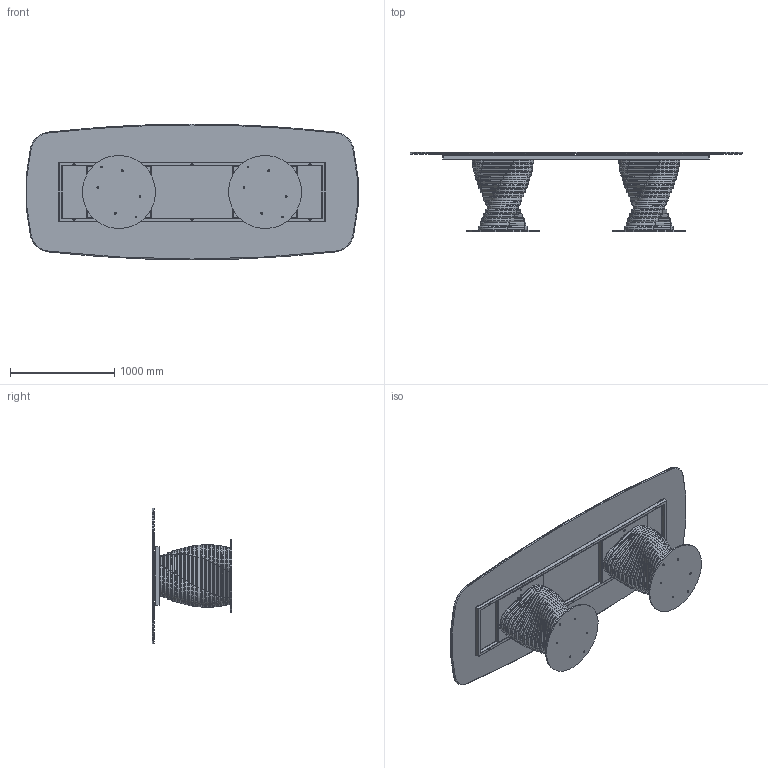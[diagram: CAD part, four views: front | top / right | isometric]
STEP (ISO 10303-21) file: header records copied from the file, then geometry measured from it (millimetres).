
FILE_DESCRIPTION (( 'STEP AP203' ), '1' );
FILE_NAME ('RO47C.STEP', '2024-08-07T13:22:19', ( '' ), ( '' ), 'SwSTEP 2.0', 'SolidWorks 2022', '' );
FILE_SCHEMA (( 'CONFIG_CONTROL_DESIGN' ));
Length unit declared in the file: millimetre
Products named in the file (15): TTAV03_02-06-VASSOIO IRRIGIDIMENTO TELAIO UNIVERSALE RETTANGOLARE; ROB200000-00-PIASTRA BASE_Ø70cm; K4XCMXX-00-Piani Sagomati in ceramica_3190 x 1300; COLLO TELAIO UNIVERSALE TTAV03 CON FERRAMENTA_MTG TOP CRISTALLO VERNICIATO-CERAMICA; ROBX00000-00-ROTOLO BASE 17 ANELLI; TTAV03-06-TELAIO UNIVERSALE X TAVOLI 300-340cm; TTAV03_01-06-RING TUBO TELAIO UNIVERSALE X TAVOLI 300-340cm; M8xXXmm_hex_M8X20mm; M8xXXmm_M8x20mm; ROBX00000INF-00-Anello rotolo INFERIORE_Default<A macchina>; 434070-00-PIEDINO TPV GOMMA NERO D. 30x8max18_filo estetico; ROBX00000MED-00-Anello rotolo MEDIO_Default<A macchina>; rondella M8_8X24; ROBX00000SUP-00-Anello rotolo SUPERIORE_Default<A macchina>; RO47C
Assembly tree (63 placements, depth 4):
  RO47C
    ROB200000-00-PIASTRA BASE_Ø70cm  x2
    COLLO TELAIO UNIVERSALE TTAV03 CON FERRAMENTA_MTG TOP CRISTALLO VERNICIATO-CERAMICA
      TTAV03-06-TELAIO UNIVERSALE X TAVOLI 300-340cm
        TTAV03_01-06-RING TUBO TELAIO UNIVERSALE X TAVOLI 300-340cm
        TTAV03_02-06-VASSOIO IRRIGIDIMENTO TELAIO UNIVERSALE RETTANGOLARE  x2
      434070-00-PIEDINO TPV GOMMA NERO D. 30x8max18_filo estetico  x8
    ROBX00000-00-ROTOLO BASE 17 ANELLI  x2
      ROBX00000INF-00-Anello rotolo INFERIORE_Default<A macchina>
      ROBX00000MED-00-Anello rotolo MEDIO_Default<A macchina>
      ROBX00000SUP-00-Anello rotolo SUPERIORE_Default<A macchina>
    M8xXXmm_hex_M8X20mm  x12
    rondella M8_8X24  x8
    M8xXXmm_M8x20mm  x8
    K4XCMXX-00-Piani Sagomati in ceramica_3190 x 1300
Bounding box: 3179.54 x 758 x 1300 mm (x, y, z)
Volume: 85122842.4 mm3; surface area: 30074176.3 mm2
Topology: 187 solids, 187 shells, 2851 faces, 6701 edges, 4178 vertices
Faces by surface type: plane 1168, cylinder 1010, torus 424, cone 241, sphere 8
Entity records: 21745 total; most frequent: CARTESIAN_POINT 4778, DIRECTION 3110, ORIENTED_EDGE 2794, EDGE_CURVE 1397, AXIS2_PLACEMENT_3D 1181, VERTEX_POINT 873, LINE 748, VECTOR 748
